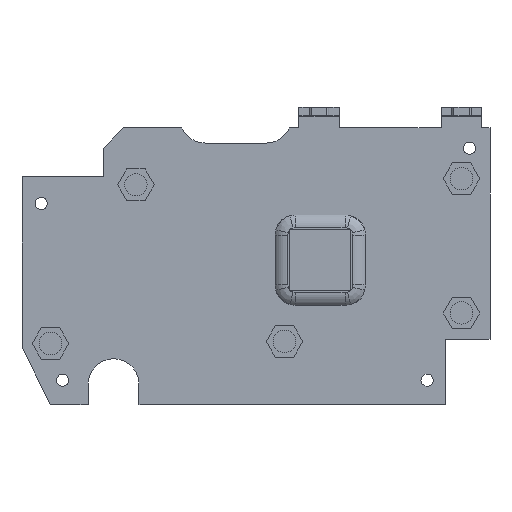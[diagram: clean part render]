
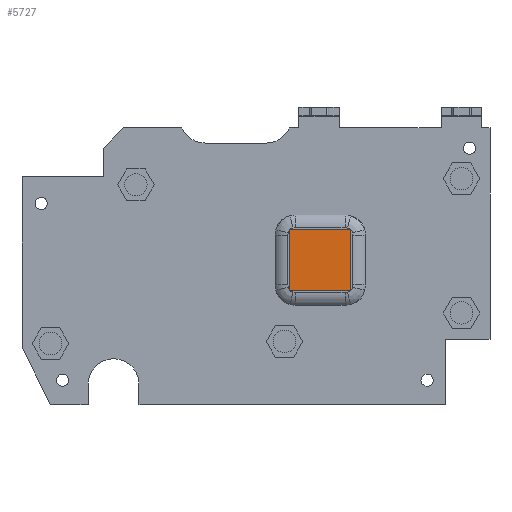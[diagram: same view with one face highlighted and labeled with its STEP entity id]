
A CAD part, front view. The second image highlights one B-rep face of the part: STEP entity #5727.
In plain terms, the highlighted planar face has unit normal (0, -1, 0).
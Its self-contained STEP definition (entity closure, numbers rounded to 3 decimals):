
#5648=DIRECTION('',(0.,0.,1.));
#5649=VECTOR('',#5648,15.);
#5650=CARTESIAN_POINT('',(-7.5,0.,-7.5));
#5651=LINE('',#5650,#5649);
#5652=DIRECTION('',(1.,0.,0.));
#5653=VECTOR('',#5652,15.);
#5654=CARTESIAN_POINT('',(-7.5,0.,7.5));
#5655=LINE('',#5654,#5653);
#5656=DIRECTION('',(0.,0.,-1.));
#5657=VECTOR('',#5656,15.);
#5658=CARTESIAN_POINT('',(7.5,0.,7.5));
#5659=LINE('',#5658,#5657);
#5660=DIRECTION('',(-1.,0.,0.));
#5661=VECTOR('',#5660,15.);
#5662=CARTESIAN_POINT('',(7.5,0.,-7.5));
#5663=LINE('',#5662,#5661);
#5696=CARTESIAN_POINT('',(-7.5,0.,-7.5));
#5697=CARTESIAN_POINT('',(-7.5,0.,7.5));
#5698=VERTEX_POINT('',#5696);
#5699=VERTEX_POINT('',#5697);
#5700=CARTESIAN_POINT('',(7.5,0.,7.5));
#5701=VERTEX_POINT('',#5700);
#5702=CARTESIAN_POINT('',(7.5,0.,-7.5));
#5703=VERTEX_POINT('',#5702);
#5712=CARTESIAN_POINT('',(0.,0.,0.));
#5713=DIRECTION('',(0.,1.,0.));
#5714=DIRECTION('',(1.,0.,0.));
#5715=AXIS2_PLACEMENT_3D('',#5712,#5713,#5714);
#5716=PLANE('',#5715);
#5718=ORIENTED_EDGE('',*,*,#5717,.T.);
#5720=ORIENTED_EDGE('',*,*,#5719,.T.);
#5722=ORIENTED_EDGE('',*,*,#5721,.T.);
#5724=ORIENTED_EDGE('',*,*,#5723,.T.);
#5725=EDGE_LOOP('',(#5718,#5720,#5722,#5724));
#5726=FACE_OUTER_BOUND('',#5725,.F.);
#5727=ADVANCED_FACE('',(#5726),#5716,.F.);
#5717=EDGE_CURVE('',#5698,#5699,#5651,.T.);
#5719=EDGE_CURVE('',#5699,#5701,#5655,.T.);
#5721=EDGE_CURVE('',#5701,#5703,#5659,.T.);
#5723=EDGE_CURVE('',#5703,#5698,#5663,.T.);
